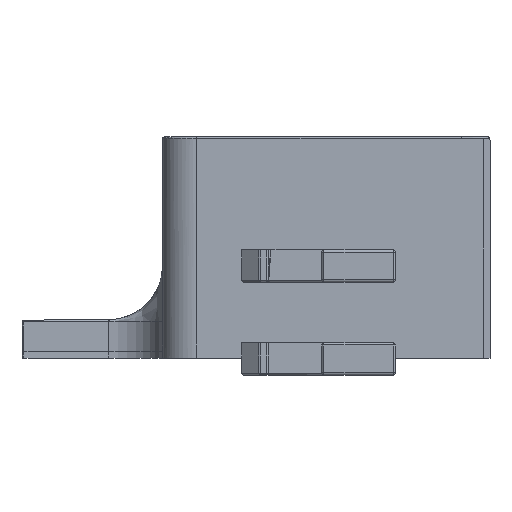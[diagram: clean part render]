
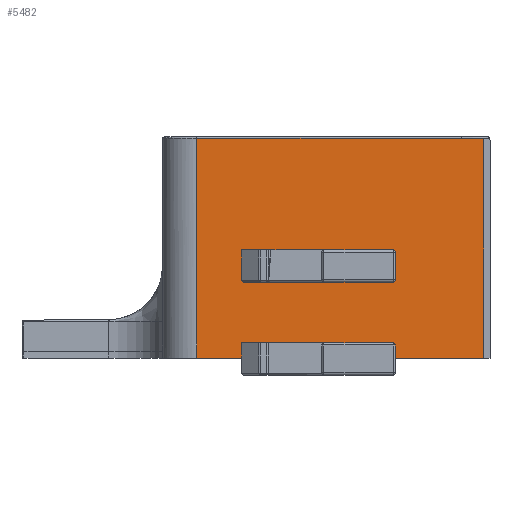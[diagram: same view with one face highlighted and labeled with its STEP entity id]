
A CAD part, left-side view. The second image highlights one B-rep face of the part: STEP entity #5482.
In plain terms, the highlighted planar face has unit normal (-1, 0, 0).
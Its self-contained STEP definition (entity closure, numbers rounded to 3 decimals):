
#33=(
BOUNDED_CURVE()
B_SPLINE_CURVE(2,(#9151,#9152,#9153),.UNSPECIFIED.,.F.,.F.)
B_SPLINE_CURVE_WITH_KNOTS((3,3),(0.,0.31),
 .UNSPECIFIED.)
CURVE()
GEOMETRIC_REPRESENTATION_ITEM()
RATIONAL_B_SPLINE_CURVE((1.,0.999,1.))
REPRESENTATION_ITEM('')
);
#583=FACE_OUTER_BOUND('',#926,.T.);
#926=EDGE_LOOP('',(#4250,#4251,#4252,#4253,#4254,#4255));
#1280=LINE('',#8864,#1733);
#1288=LINE('',#8930,#1741);
#1366=LINE('',#9149,#1819);
#1367=LINE('',#9155,#1820);
#1368=LINE('',#9156,#1821);
#1733=VECTOR('',#6842,10.);
#1741=VECTOR('',#6854,10.);
#1819=VECTOR('',#7000,10.);
#1820=VECTOR('',#7001,10.);
#1821=VECTOR('',#7002,10.);
#2393=VERTEX_POINT('',#8834);
#2395=VERTEX_POINT('',#8850);
#2405=VERTEX_POINT('',#8928);
#2490=VERTEX_POINT('',#9148);
#2491=VERTEX_POINT('',#9150);
#2492=VERTEX_POINT('',#9154);
#3015=EDGE_CURVE('',#2393,#2395,#1280,.T.);
#3026=EDGE_CURVE('',#2405,#2395,#1288,.T.);
#3126=EDGE_CURVE('',#2405,#2490,#1366,.T.);
#3127=EDGE_CURVE('',#2491,#2490,#33,.T.);
#3128=EDGE_CURVE('',#2492,#2491,#1367,.T.);
#3129=EDGE_CURVE('',#2393,#2492,#1368,.T.);
#4250=ORIENTED_EDGE('',*,*,#3126,.T.);
#4251=ORIENTED_EDGE('',*,*,#3127,.F.);
#4252=ORIENTED_EDGE('',*,*,#3128,.F.);
#4253=ORIENTED_EDGE('',*,*,#3129,.F.);
#4254=ORIENTED_EDGE('',*,*,#3015,.T.);
#4255=ORIENTED_EDGE('',*,*,#3026,.F.);
#5290=PLANE('',#5938);
#5482=ADVANCED_FACE('',(#583),#5290,.F.);
#5938=AXIS2_PLACEMENT_3D('',#9147,#6998,#6999);
#6842=DIRECTION('',(0.,0.,-1.));
#6854=DIRECTION('',(0.,1.,0.));
#6998=DIRECTION('center_axis',(1.,0.,0.));
#6999=DIRECTION('ref_axis',(0.,1.,0.));
#7000=DIRECTION('',(0.,0.,1.));
#7001=DIRECTION('',(0.,-1.,0.));
#7002=DIRECTION('',(0.,0.,1.));
#8834=CARTESIAN_POINT('',(48.1,39.019,43.1));
#8850=CARTESIAN_POINT('',(48.1,39.019,43.05));
#8864=CARTESIAN_POINT('',(48.1,39.019,43.1));
#8928=CARTESIAN_POINT('',(48.1,-1.101,43.05));
#8930=CARTESIAN_POINT('',(48.1,18.281,43.05));
#9147=CARTESIAN_POINT('Origin',(48.1,-1.101,43.));
#9148=CARTESIAN_POINT('',(48.1,-1.101,73.794));
#9149=CARTESIAN_POINT('',(48.1,-1.101,43.));
#9150=CARTESIAN_POINT('',(48.1,1.999,73.82));
#9151=CARTESIAN_POINT('Ctrl Pts',(48.1,1.999,73.82));
#9152=CARTESIAN_POINT('Ctrl Pts',(48.1,0.377,73.807));
#9153=CARTESIAN_POINT('Ctrl Pts',(48.1,-1.101,73.794));
#9154=CARTESIAN_POINT('',(48.1,39.019,73.82));
#9155=CARTESIAN_POINT('',(48.1,23.146,73.82));
#9156=CARTESIAN_POINT('',(48.1,39.019,43.));
